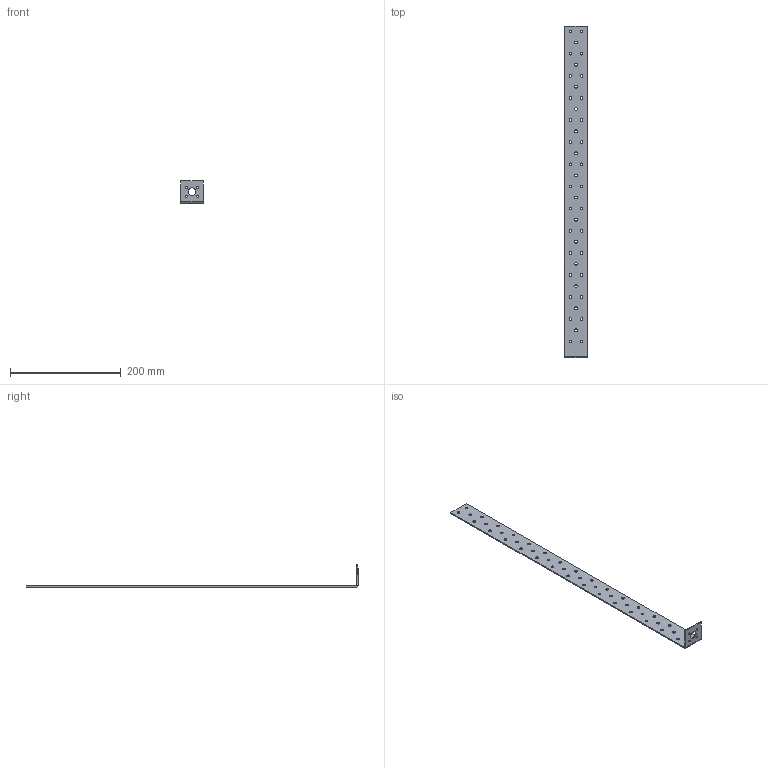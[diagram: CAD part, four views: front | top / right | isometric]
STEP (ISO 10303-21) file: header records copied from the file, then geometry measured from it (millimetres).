
FILE_DESCRIPTION (( 'STEP AP203' ), '1' );
FILE_NAME ('90505.STEP', '2021-06-22T13:33:33', ( '' ), ( '' ), 'SwSTEP 2.0', 'SolidWorks 2013', '' );
FILE_SCHEMA (( 'CONFIG_CONTROL_DESIGN' ));
Length unit declared in the file: millimetre
Products named in the file (1): 90505
Bounding box: 40 x 600 x 40 mm (x, y, z)
Volume: 48864.3 mm3; surface area: 53133.5 mm2
Topology: 1 solids, 1 shells, 112 faces, 322 edges, 212 vertices
Faces by surface type: cylinder 100, plane 12
Entity records: 4057 total; most frequent: DIRECTION 748, CARTESIAN_POINT 647, ORIENTED_EDGE 644, EDGE_CURVE 322, AXIS2_PLACEMENT_3D 313, VERTEX_POINT 212, EDGE_LOOP 210, CIRCLE 200
